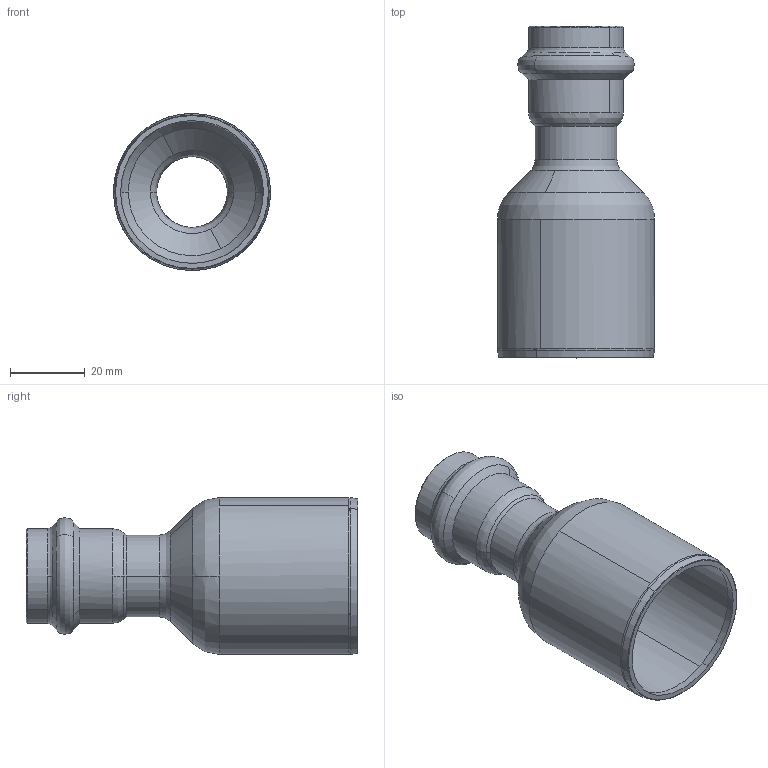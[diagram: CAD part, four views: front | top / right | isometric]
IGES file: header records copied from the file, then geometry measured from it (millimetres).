
Start section: Elysium IGES Interface
Global section: file name: C:\Users\Wallenburg\Desktop\3d modellen sudo\S-Pr VP\SP6243V\6243VW4222.igs; native system: CoCreate Modeling 17.00A  17-Jun-2010; preprocessor: CoCreate IGES_3D V2.2; author: Unknown; organization: Unknown; date: 20130124.093746; units: millimetre
Bounding box: 42 x 88.71 x 41.97 mm (x, y, z)
Volume: 15305.5 mm3; surface area: 19194.7 mm2
Topology: 1 solids, 1 shells, 73 faces, 186 edges, 114 vertices
Faces by surface type: bspline 73
